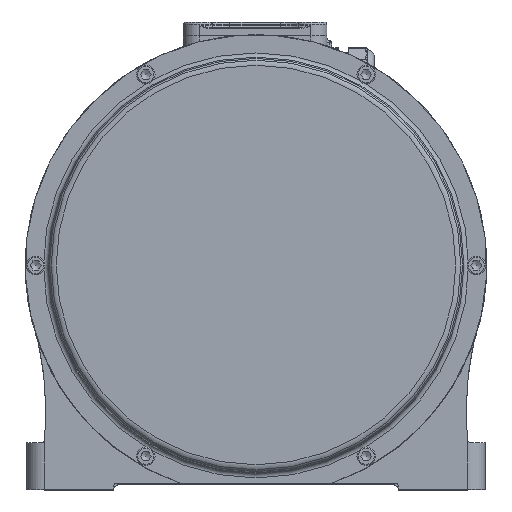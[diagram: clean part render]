
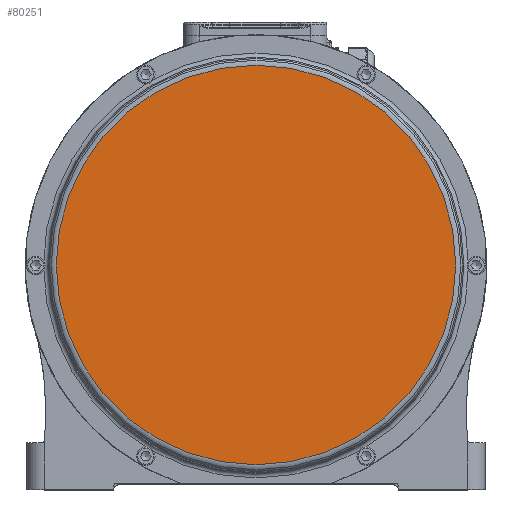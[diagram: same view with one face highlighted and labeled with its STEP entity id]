
A CAD part, top view. The second image highlights one B-rep face of the part: STEP entity #80251.
In plain terms, the highlighted planar face has unit normal (0, 0, 1).
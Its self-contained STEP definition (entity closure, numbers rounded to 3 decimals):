
#23911=FACE_OUTER_BOUND('',#28769,.T.);
#28769=EDGE_LOOP('',(#66987));
#30976=CIRCLE('',#84362,172.25);
#37807=VERTEX_POINT('',#134563);
#47832=EDGE_CURVE('',#37807,#37807,#30976,.T.);
#66987=ORIENTED_EDGE('',*,*,#47832,.F.);
#77005=PLANE('',#84378);
#80251=ADVANCED_FACE('',(#23911),#77005,.T.);
#84362=AXIS2_PLACEMENT_3D('',#134565,#97506,#97507);
#84378=AXIS2_PLACEMENT_3D('',#134593,#97540,#97541);
#97506=DIRECTION('center_axis',(0.,0.,
-1.));
#97507=DIRECTION('ref_axis',(0.,-1.,0.));
#97540=DIRECTION('center_axis',(0.,0.,
1.));
#97541=DIRECTION('ref_axis',(-1.,0.,0.));
#134563=CARTESIAN_POINT('',(-172.671,-0.213,399.5));
#134565=CARTESIAN_POINT('Origin',(-0.421,-0.213,
399.5));
#134593=CARTESIAN_POINT('Origin',(171.829,-0.213,399.5));
